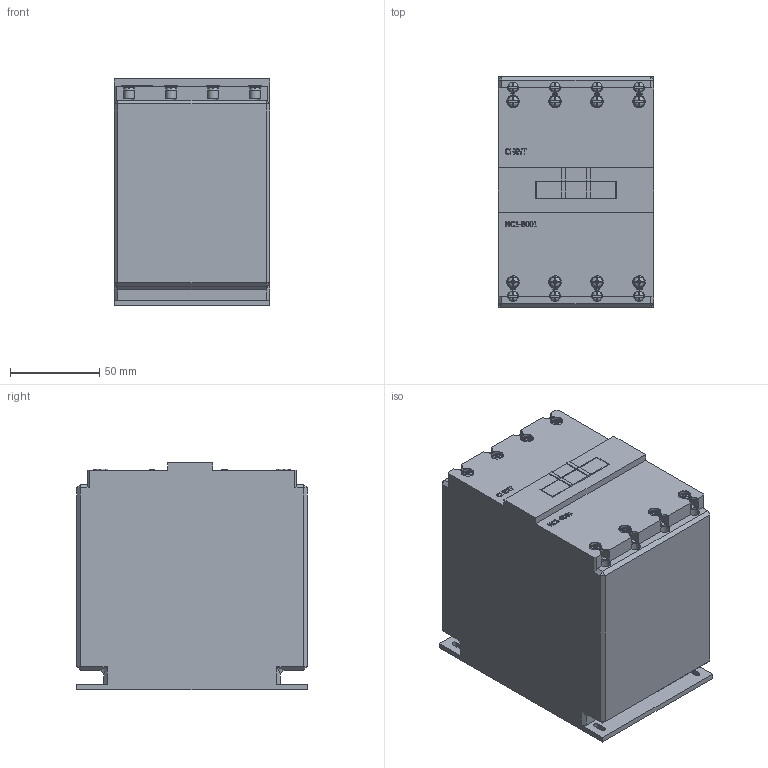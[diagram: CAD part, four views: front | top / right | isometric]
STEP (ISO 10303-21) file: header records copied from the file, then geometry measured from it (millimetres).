
FILE_DESCRIPTION(/* description */ (''),/* implementation_level */ '2;1');
FILE_NAME(/* name */ 'D:\CHINT2\NC1\NC1-8001 230В 50.stp',/* time_stamp */ '2017-11-12T20:27:58+03:00',/* author */ ('RSagdiev'),/* organization */ (''),/* preprocessor_version */ 'ST-DEVELOPER v16.5',/* originating_system */ 'Autodesk Inventor 2017',/* authorisation */ '');
FILE_SCHEMA (('AUTOMOTIVE_DESIGN { 1 0 10303 214 3 1 1 }'));
Length unit declared in the file: millimetre
Products named in the file (1): NC1-8001 230В 50
Bounding box: 87 x 129 x 127.5 mm (x, y, z)
Volume: 1353801.3 mm3; surface area: 87181.8 mm2
Topology: 22 solids, 22 shells, 1485 faces, 3988 edges, 2628 vertices
Faces by surface type: plane 1026, bspline 403, cylinder 48, torus 8
Full cylindrical faces by diameter (mm): 5.8 x8, 6 x16
Entity records: 50009 total; most frequent: CARTESIAN_POINT 15548, ORIENTED_EDGE 7898, DIRECTION 5547, EDGE_CURVE 3949, LINE 2705, VECTOR 2705, VERTEX_POINT 2621, EDGE_LOOP 1622
